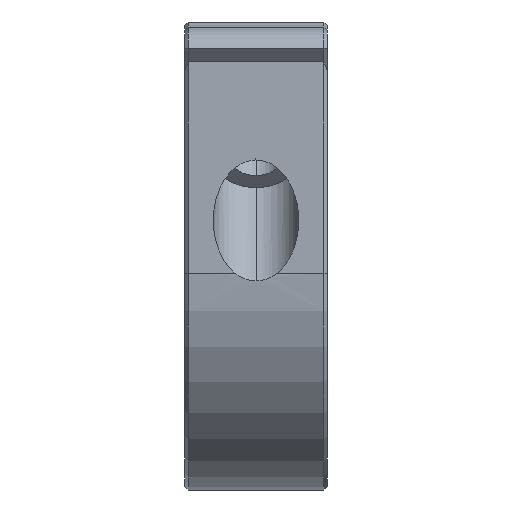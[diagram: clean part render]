
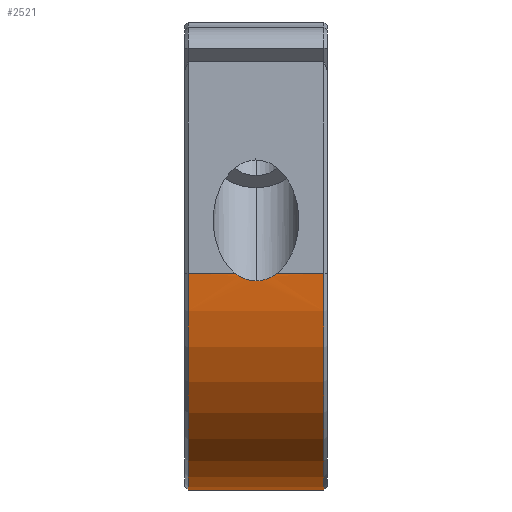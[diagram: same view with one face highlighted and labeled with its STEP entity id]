
A CAD part, left-side view. The second image highlights one B-rep face of the part: STEP entity #2521.
In plain terms, the highlighted cylindrical face has radius 19 mm (diameter 38 mm), a partial arc.
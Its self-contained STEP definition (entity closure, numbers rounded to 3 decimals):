
#1 = EDGE_CURVE ( 'NONE', #2843, #2245, #1242, .T. ) ;
#14 = CARTESIAN_POINT ( 'NONE',  ( -18.997, 4.949, -0.381 ) ) ;
#29 = CARTESIAN_POINT ( 'NONE',  ( -19., 4.397, 0. ) ) ;
#32 = B_SPLINE_CURVE_WITH_KNOTS ( 'NONE', 3,
 ( #1604, #203, #1548, #2687, #2508, #457 ),
 .UNSPECIFIED., .F., .F.,
 ( 4, 2, 4 ),
 ( 0.002, 0.003, 0.004 ),
 .UNSPECIFIED. ) ;
#145 = CIRCLE ( 'NONE', #285, 19. ) ;
#203 = CARTESIAN_POINT ( 'NONE',  ( -18.988, 6.588, -0.681 ) ) ;
#279 = DIRECTION ( 'NONE',  ( 0., -1., 0. ) ) ;
#285 = AXIS2_PLACEMENT_3D ( 'NONE', #1760, #869, #2660 ) ;
#334 = CARTESIAN_POINT ( 'NONE',  ( -19., 12.5, 0. ) ) ;
#349 = DIRECTION ( 'NONE',  ( 0., -1., 0. ) ) ;
#364 = EDGE_CURVE ( 'NONE', #2843, #2327, #624, .T. ) ;
#385 = VECTOR ( 'NONE', #991, 1000. ) ;
#457 = CARTESIAN_POINT ( 'NONE',  ( -19., 8.103, 0. ) ) ;
#497 = ORIENTED_EDGE ( 'NONE', *, *, #1340, .T. ) ;
#561 = ORIENTED_EDGE ( 'NONE', *, *, #858, .T. ) ;
#624 = CIRCLE ( 'NONE', #1584, 19. ) ;
#637 = EDGE_CURVE ( 'NONE', #1118, #2245, #32, .T. ) ;
#652 = ORIENTED_EDGE ( 'NONE', *, *, #1, .F. ) ;
#699 = FACE_OUTER_BOUND ( 'NONE', #2505, .T. ) ;
#750 = CARTESIAN_POINT ( 'NONE',  ( -18.988, 6.25, -0.681 ) ) ;
#800 = LINE ( 'NONE', #1489, #2264 ) ;
#842 = DIRECTION ( 'NONE',  ( 0., 0., 1. ) ) ;
#852 = CARTESIAN_POINT ( 'NONE',  ( -19., 12.2, 0. ) ) ;
#858 = EDGE_CURVE ( 'NONE', #1894, #1956, #145, .T. ) ;
#869 = DIRECTION ( 'NONE',  ( 0., 1., 0. ) ) ;
#891 = DIRECTION ( 'NONE',  ( 0., -1., 0. ) ) ;
#991 = DIRECTION ( 'NONE',  ( 0., -1., 0. ) ) ;
#1060 = CARTESIAN_POINT ( 'NONE',  ( -19., 8.103, 0. ) ) ;
#1089 = CARTESIAN_POINT ( 'NONE',  ( -19., 0.3, 0. ) ) ;
#1118 = VERTEX_POINT ( 'NONE', #750 ) ;
#1162 = CARTESIAN_POINT ( 'NONE',  ( -19., 4.397, 0. ) ) ;
#1242 = LINE ( 'NONE', #334, #385 ) ;
#1310 = DIRECTION ( 'NONE',  ( 0., -1., 0. ) ) ;
#1340 = EDGE_CURVE ( 'NONE', #2327, #1894, #2466, .T. ) ;
#1377 = B_SPLINE_CURVE_WITH_KNOTS ( 'NONE', 3,
 ( #29, #2076, #14, #1856, #1651, #2751 ),
 .UNSPECIFIED., .F., .F.,
 ( 4, 2, 4 ),
 ( 0., 0.001, 0.002 ),
 .UNSPECIFIED. ) ;
#1489 = CARTESIAN_POINT ( 'NONE',  ( -19., 12.5, 0. ) ) ;
#1526 = CARTESIAN_POINT ( 'NONE',  ( 0., 12.5, -19. ) ) ;
#1548 = CARTESIAN_POINT ( 'NONE',  ( -18.99, 6.918, -0.619 ) ) ;
#1553 = EDGE_CURVE ( 'NONE', #2370, #1956, #800, .T. ) ;
#1584 = AXIS2_PLACEMENT_3D ( 'NONE', #1680, #279, #842 ) ;
#1604 = CARTESIAN_POINT ( 'NONE',  ( -18.988, 6.25, -0.681 ) ) ;
#1651 = CARTESIAN_POINT ( 'NONE',  ( -18.988, 5.911, -0.681 ) ) ;
#1680 = CARTESIAN_POINT ( 'NONE',  ( 0., 12.2, 0. ) ) ;
#1760 = CARTESIAN_POINT ( 'NONE',  ( 0., 0.3, 0. ) ) ;
#1776 = EDGE_CURVE ( 'NONE', #2370, #1118, #1377, .T. ) ;
#1823 = DIRECTION ( 'NONE',  ( 0., 0., -1. ) ) ;
#1824 = VECTOR ( 'NONE', #1310, 1000. ) ;
#1856 = CARTESIAN_POINT ( 'NONE',  ( -18.99, 5.583, -0.619 ) ) ;
#1882 = ORIENTED_EDGE ( 'NONE', *, *, #1553, .F. ) ;
#1894 = VERTEX_POINT ( 'NONE', #2610 ) ;
#1956 = VERTEX_POINT ( 'NONE', #1089 ) ;
#2022 = CARTESIAN_POINT ( 'NONE',  ( 0., 12.2, -19. ) ) ;
#2030 = CYLINDRICAL_SURFACE ( 'NONE', #2123, 19. ) ;
#2076 = CARTESIAN_POINT ( 'NONE',  ( -19., 4.661, -0.212 ) ) ;
#2123 = AXIS2_PLACEMENT_3D ( 'NONE', #2934, #891, #1823 ) ;
#2191 = ORIENTED_EDGE ( 'NONE', *, *, #637, .T. ) ;
#2245 = VERTEX_POINT ( 'NONE', #1060 ) ;
#2264 = VECTOR ( 'NONE', #349, 1000. ) ;
#2327 = VERTEX_POINT ( 'NONE', #2022 ) ;
#2370 = VERTEX_POINT ( 'NONE', #1162 ) ;
#2466 = LINE ( 'NONE', #1526, #1824 ) ;
#2505 = EDGE_LOOP ( 'NONE', ( #2549, #497, #561, #1882, #2537, #2191, #652 ) ) ;
#2508 = CARTESIAN_POINT ( 'NONE',  ( -19., 7.84, -0.212 ) ) ;
#2521 = ADVANCED_FACE ( 'NONE', ( #699 ), #2030, .T. ) ;
#2537 = ORIENTED_EDGE ( 'NONE', *, *, #1776, .T. ) ;
#2549 = ORIENTED_EDGE ( 'NONE', *, *, #364, .T. ) ;
#2610 = CARTESIAN_POINT ( 'NONE',  ( 0., 0.3, -19. ) ) ;
#2660 = DIRECTION ( 'NONE',  ( 0., 0., 1. ) ) ;
#2687 = CARTESIAN_POINT ( 'NONE',  ( -18.997, 7.55, -0.382 ) ) ;
#2751 = CARTESIAN_POINT ( 'NONE',  ( -18.988, 6.25, -0.681 ) ) ;
#2843 = VERTEX_POINT ( 'NONE', #852 ) ;
#2934 = CARTESIAN_POINT ( 'NONE',  ( 0., 12.5, 0. ) ) ;
